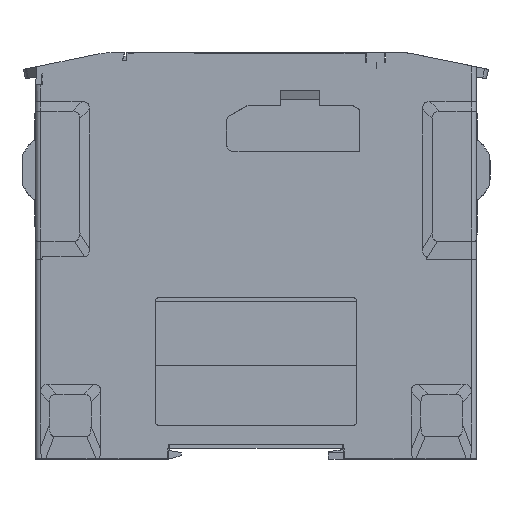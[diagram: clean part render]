
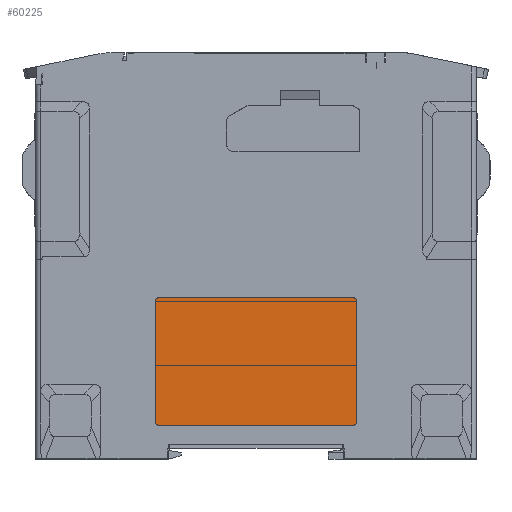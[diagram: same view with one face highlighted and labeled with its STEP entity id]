
A CAD part, front view. The second image highlights one B-rep face of the part: STEP entity #60225.
In plain terms, the highlighted planar face has unit normal (0, -1, 0).
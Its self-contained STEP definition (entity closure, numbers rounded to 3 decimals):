
#9519=DIRECTION('',(0.,0.,1.));
#9520=VECTOR('',#9519,25.);
#9521=CARTESIAN_POINT('',(-20.5,-85.7,
-38.88));
#9522=LINE('',#9521,#9520);
#9523=CARTESIAN_POINT('',(-20.,-85.7,
-13.88));
#9524=DIRECTION('',(0.,1.,0.));
#9525=DIRECTION('',(-1.,0.,0.));
#9526=AXIS2_PLACEMENT_3D('',#9523,#9524,#9525);
#9528=DIRECTION('',(1.,0.,0.));
#9529=VECTOR('',#9528,40.);
#9530=CARTESIAN_POINT('',(-20.,-85.7,
-13.38));
#9531=LINE('',#9530,#9529);
#9532=CARTESIAN_POINT('',(20.,-85.7,
-13.88));
#9533=DIRECTION('',(0.,1.,0.));
#9534=DIRECTION('',(0.,0.,1.));
#9535=AXIS2_PLACEMENT_3D('',#9532,#9533,#9534);
#9537=DIRECTION('',(0.,0.,-1.));
#9538=VECTOR('',#9537,25.);
#9539=CARTESIAN_POINT('',(20.5,-85.7,
-13.88));
#9540=LINE('',#9539,#9538);
#9541=CARTESIAN_POINT('',(20.,-85.7,
-38.88));
#9542=DIRECTION('',(0.,1.,0.));
#9543=DIRECTION('',(1.,0.,0.));
#9544=AXIS2_PLACEMENT_3D('',#9541,#9542,#9543);
#9546=DIRECTION('',(-1.,0.,0.));
#9547=VECTOR('',#9546,40.);
#9548=CARTESIAN_POINT('',(20.,-85.7,
-39.38));
#9549=LINE('',#9548,#9547);
#9550=CARTESIAN_POINT('',(-20.,-85.7,
-38.88));
#9551=DIRECTION('',(0.,1.,0.));
#9552=DIRECTION('',(0.,0.,-1.));
#9553=AXIS2_PLACEMENT_3D('',#9550,#9551,#9552);
#43956=CARTESIAN_POINT('',(-20.,-85.7,
-39.38));
#43957=VERTEX_POINT('',#43956);
#43958=CARTESIAN_POINT('',(-20.5,-85.7,
-38.88));
#43959=VERTEX_POINT('',#43958);
#43960=CARTESIAN_POINT('',(20.,-85.7,
-39.38));
#43961=VERTEX_POINT('',#43960);
#43962=CARTESIAN_POINT('',(-20.5,-85.7,
-13.88));
#43963=VERTEX_POINT('',#43962);
#43964=CARTESIAN_POINT('',(-20.,-85.7,
-13.38));
#43965=VERTEX_POINT('',#43964);
#43966=CARTESIAN_POINT('',(20.,-85.7,
-13.38));
#43967=VERTEX_POINT('',#43966);
#43968=CARTESIAN_POINT('',(20.5,-85.7,
-13.88));
#43969=VERTEX_POINT('',#43968);
#43970=CARTESIAN_POINT('',(20.5,-85.7,
-38.88));
#43971=VERTEX_POINT('',#43970);
#60204=CARTESIAN_POINT('',(0.,-85.7,
-43.38));
#60205=DIRECTION('',(0.,-1.,0.));
#60206=DIRECTION('',(1.,0.,0.));
#60207=AXIS2_PLACEMENT_3D('',#60204,#60205,#60206);
#60208=PLANE('',#60207);
#60210=ORIENTED_EDGE('',*,*,#60209,.T.);
#60212=ORIENTED_EDGE('',*,*,#60211,.T.);
#60214=ORIENTED_EDGE('',*,*,#60213,.T.);
#60216=ORIENTED_EDGE('',*,*,#60215,.T.);
#60218=ORIENTED_EDGE('',*,*,#60217,.T.);
#60220=ORIENTED_EDGE('',*,*,#60219,.T.);
#60221=ORIENTED_EDGE('',*,*,#60195,.T.);
#60222=ORIENTED_EDGE('',*,*,#60185,.T.);
#60223=EDGE_LOOP('',(#60210,#60212,#60214,#60216,#60218,#60220,#60221,#60222));
#60224=FACE_OUTER_BOUND('',#60223,.F.);
#60225=ADVANCED_FACE('',(#60224),#60208,.T.);
#9527=CIRCLE('',#9526,0.5);
#9536=CIRCLE('',#9535,0.5);
#9545=CIRCLE('',#9544,0.5);
#9554=CIRCLE('',#9553,0.5);
#60185=EDGE_CURVE('',#43957,#43959,#9554,.T.);
#60195=EDGE_CURVE('',#43961,#43957,#9549,.T.);
#60209=EDGE_CURVE('',#43959,#43963,#9522,.T.);
#60211=EDGE_CURVE('',#43963,#43965,#9527,.T.);
#60213=EDGE_CURVE('',#43965,#43967,#9531,.T.);
#60215=EDGE_CURVE('',#43967,#43969,#9536,.T.);
#60217=EDGE_CURVE('',#43969,#43971,#9540,.T.);
#60219=EDGE_CURVE('',#43971,#43961,#9545,.T.);
